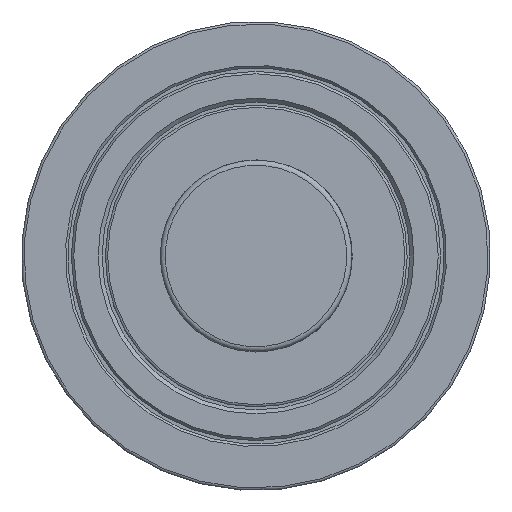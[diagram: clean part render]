
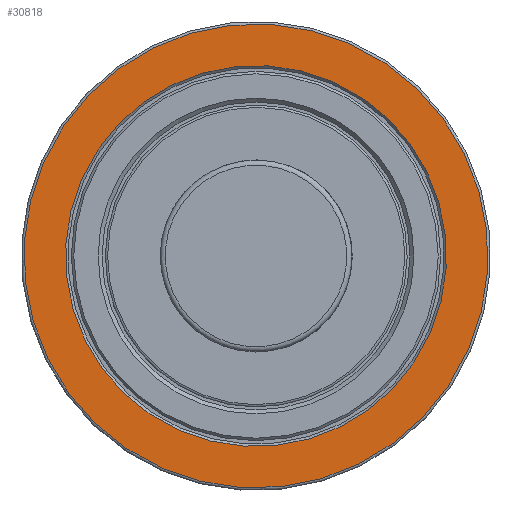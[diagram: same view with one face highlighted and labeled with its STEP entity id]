
A CAD part, front view. The second image highlights one B-rep face of the part: STEP entity #30818.
In plain terms, the highlighted planar face has unit normal (0, -1, 0).
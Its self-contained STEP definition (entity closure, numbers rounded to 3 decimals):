
#8575=FACE_BOUND('',#11811,.T.);
#10143=FACE_OUTER_BOUND('',#11810,.T.);
#11810=EDGE_LOOP('',(#28749));
#11811=EDGE_LOOP('',(#28750));
#12349=CIRCLE('',#31947,15.475);
#12352=CIRCLE('',#31952,18.85);
#15333=VERTEX_POINT('',#67890);
#15336=VERTEX_POINT('',#67900);
#19813=EDGE_CURVE('',#15333,#15333,#12349,.T.);
#19818=EDGE_CURVE('',#15336,#15336,#12352,.T.);
#28749=ORIENTED_EDGE('',*,*,#19818,.F.);
#28750=ORIENTED_EDGE('',*,*,#19813,.F.);
#29251=PLANE('',#31951);
#30818=ADVANCED_FACE('',(#10143,#8575),#29251,.T.);
#31947=AXIS2_PLACEMENT_3D('',#67891,#35896,#35897);
#31951=AXIS2_PLACEMENT_3D('',#67899,#35906,#35907);
#31952=AXIS2_PLACEMENT_3D('',#67901,#35908,#35909);
#35896=DIRECTION('center_axis',(0.,-1.,0.));
#35897=DIRECTION('ref_axis',(0.998,0.,-0.066));
#35906=DIRECTION('center_axis',(0.,-1.,0.));
#35907=DIRECTION('ref_axis',(0.066,0.,0.998));
#35908=DIRECTION('center_axis',(0.,1.,0.));
#35909=DIRECTION('ref_axis',(0.998,0.,-0.066));
#67890=CARTESIAN_POINT('',(-15.441,-22.83,1.023));
#67891=CARTESIAN_POINT('Origin',(0.,-22.83,
0.));
#67899=CARTESIAN_POINT('Origin',(-19.008,-22.83,1.259));
#67900=CARTESIAN_POINT('',(1.246,-22.83,18.809));
#67901=CARTESIAN_POINT('Origin',(0.,-22.83,
0.));
